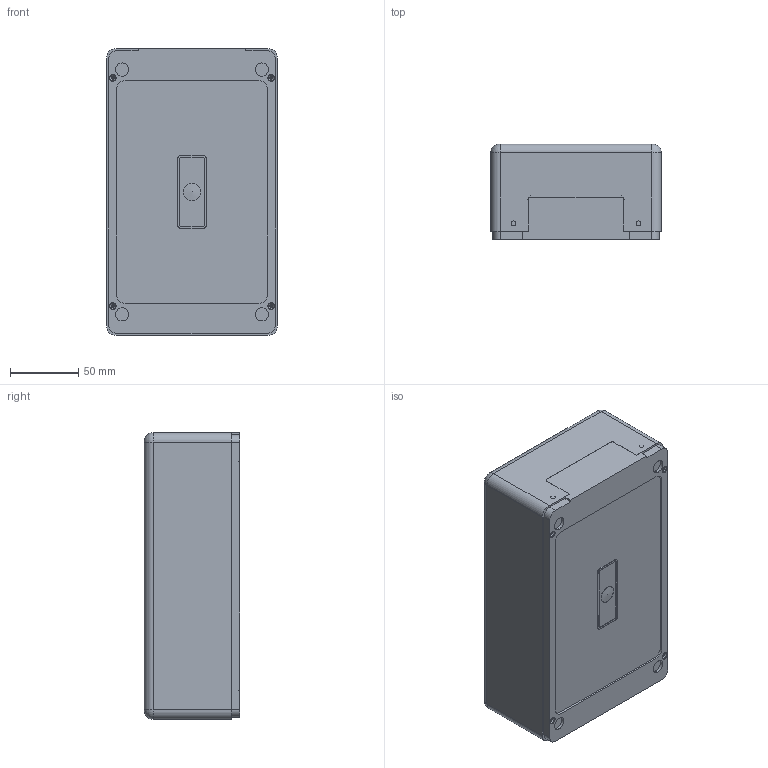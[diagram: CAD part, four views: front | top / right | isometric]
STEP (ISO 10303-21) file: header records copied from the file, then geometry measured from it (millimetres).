
FILE_DESCRIPTION (( 'STEP AP214' ), '1' );
FILE_NAME ('FTL-165 Assembly.STEP', '2021-01-25T17:55:19', ( '' ), ( '' ), 'SwSTEP 2.0', 'SolidWorks 2016', '' );
FILE_SCHEMA (( 'AUTOMOTIVE_DESIGN' ));
Length unit declared in the file: inch
Products named in the file (7): FTL-165 Bottom; FTL-165 Top; pan cross head_am_B18.6.7M - M3 x 0.5 x 4 Type I Cross Recessed PHMS --4N; FTL-165 Assembly; flat washer narrow_am_B18.22M - Plain washer, 2.5 mm, narrow; FTL-PANEL; FTL-PCB
Assembly tree (12 placements, depth 2):
  FTL-165 Assembly
    FTL-165 Bottom
    FTL-165 Top
    FTL-PANEL
    FTL-PCB
    flat washer narrow_am_B18.22M - Plain washer, 2.5 mm, narrow  x4
    pan cross head_am_B18.6.7M - M3 x 0.5 x 4 Type I Cross Recessed PHMS --4N  x4
Bounding box: 125.07 x 69.77 x 210 mm (x, y, z)
Volume: 347575.1 mm3; surface area: 264282.2 mm2
Topology: 12 solids, 14 shells, 725 faces, 1831 edges, 1167 vertices
Faces by surface type: plane 445, cylinder 190, cone 68, torus 13, sphere 9
Entity records: 19736 total; most frequent: DIRECTION 3412, CARTESIAN_POINT 3352, ORIENTED_EDGE 3284, EDGE_CURVE 1642, VECTOR 1174, LINE 1174, AXIS2_PLACEMENT_3D 1119, VERTEX_POINT 1051
